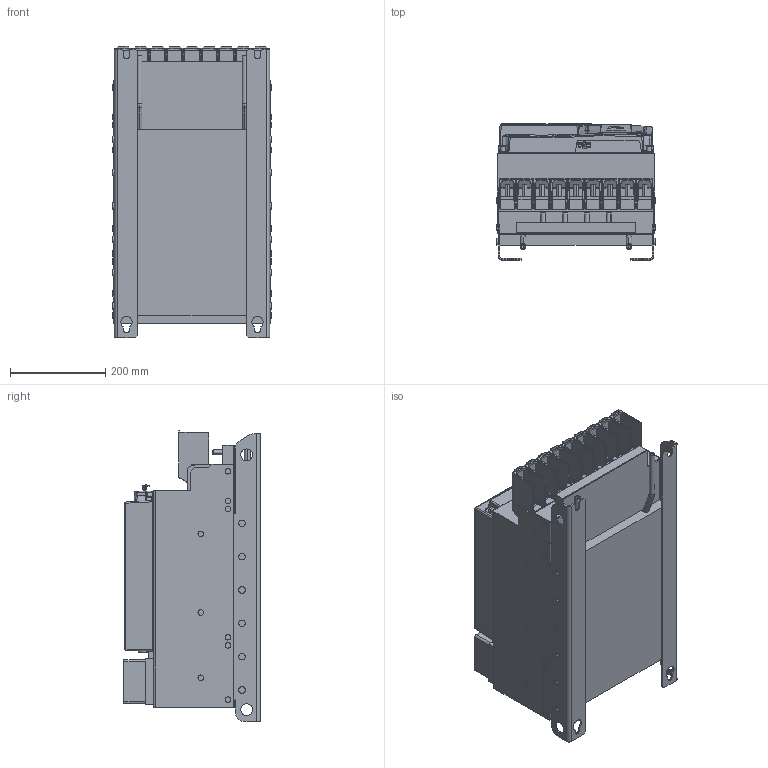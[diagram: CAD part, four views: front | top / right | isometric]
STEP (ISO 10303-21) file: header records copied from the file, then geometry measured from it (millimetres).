
FILE_DESCRIPTION (( 'STEP AP214' ), '1' );
FILE_NAME ('F6-6TR0-K000.STEP', '2021-02-26T13:49:09', ( '' ), ( '' ), 'SwSTEP 2.0', 'SolidWorks 2019', '' );
FILE_SCHEMA (( 'AUTOMOTIVE_DESIGN' ));
Length unit declared in the file: millimetre
Products named in the file (13): 10061503_000; 10061522_000; 10061629_000; F6-6TR0-K000; 10060724_000_ Leistungsteil F6-7 TW0 (Kundenmodell); 10035735_000_Kundenmodell; 10045475_000_Geh„usebaugruppe F6-7 (Kundenmodell); 10061502_000_Deckel (Kundenmodell); 10043622_000_70F6 Klemme (Kundenmodell); 10059765_000; 10058413_000; 10059764_000_Blindabdeckung (Kundenmodell); 10061504_000_Gehеsebaugruppe ohne L’terkarte
Assembly tree (12 placements, depth 4):
  F6-6TR0-K000
    10060724_000_ Leistungsteil F6-7 TW0 (Kundenmodell)
      10043622_000_70F6 Klemme (Kundenmodell)
        10061522_000
      10061629_000
    10045475_000_Geh„usebaugruppe F6-7 (Kundenmodell)
      10061502_000_Deckel (Kundenmodell)
        10061503_000
      10061504_000_Gehеsebaugruppe ohne L’terkarte
    10035735_000_Kundenmodell
      10059764_000_Blindabdeckung (Kundenmodell)
        10059765_000
      10058413_000
Bounding box: 335.4 x 285.9 x 611.76 mm (x, y, z)
Volume: 40113587.2 mm3; surface area: 2134400.5 mm2
Topology: 12 solids, 12 shells, 3017 faces, 7713 edges, 4730 vertices
Faces by surface type: plane 1538, cylinder 912, bspline 268, sphere 172, torus 73, cone 54
Entity records: 97574 total; most frequent: CARTESIAN_POINT 26666, ORIENTED_EDGE 15204, DIRECTION 13917, EDGE_CURVE 7602, LINE 4863, VECTOR 4863, VERTEX_POINT 4727, AXIS2_PLACEMENT_3D 4527
